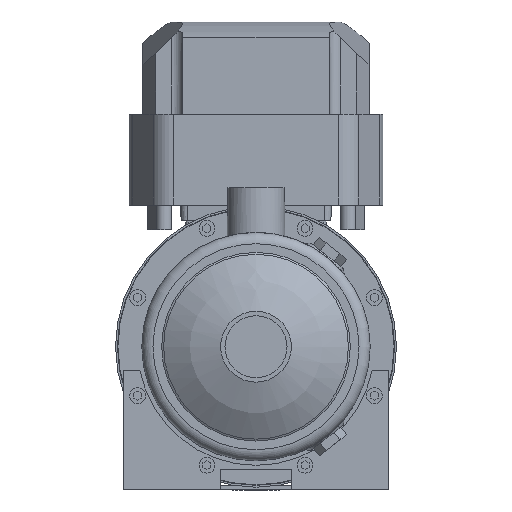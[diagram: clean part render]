
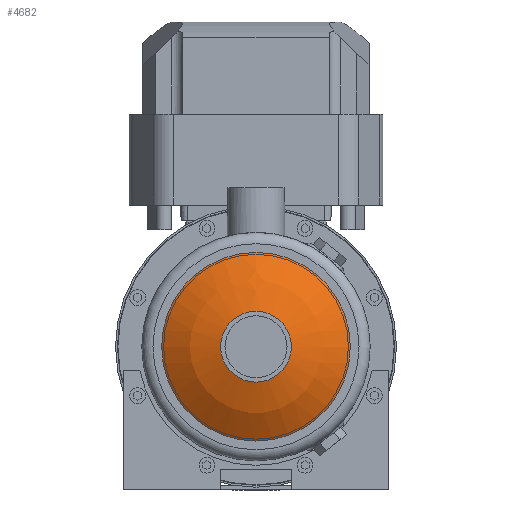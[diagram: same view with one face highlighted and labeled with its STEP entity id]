
A CAD part, left-side view. The second image highlights one B-rep face of the part: STEP entity #4682.
In plain terms, the highlighted spherical face has radius 100 mm.
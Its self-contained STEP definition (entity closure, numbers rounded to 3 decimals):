
#52=SPHERICAL_SURFACE('',#6084,100.);
#1115=ORIENTED_EDGE('',*,*,#2408,.T.);
#1116=ORIENTED_EDGE('',*,*,#2407,.F.);
#2407=EDGE_CURVE('',#3058,#3058,#3505,.T.);
#2408=EDGE_CURVE('',#3059,#3059,#3506,.T.);
#3058=VERTEX_POINT('',#8098);
#3059=VERTEX_POINT('',#8101);
#3505=CIRCLE('',#6083,22.25);
#3506=CIRCLE('',#6085,59.25);
#3691=EDGE_LOOP('',(#1115));
#3692=EDGE_LOOP('',(#1116));
#4096=FACE_BOUND('',#3691,.T.);
#4097=FACE_BOUND('',#3692,.T.);
#4682=ADVANCED_FACE('',(#4096,#4097),#52,.T.);
#6083=AXIS2_PLACEMENT_3D('',#8097,#6613,#6614);
#6084=AXIS2_PLACEMENT_3D('',#8099,#6615,#6616);
#6085=AXIS2_PLACEMENT_3D('',#8100,#6617,#6618);
#6613=DIRECTION('',(-1.,0.,0.));
#6614=DIRECTION('',(0.,0.,1.));
#6615=DIRECTION('',(-1.,0.,0.));
#6616=DIRECTION('',(0.,0.,1.));
#6617=DIRECTION('',(-1.,0.,0.));
#6618=DIRECTION('',(0.,0.,1.));
#8097=CARTESIAN_POINT('',(-67.293,0.,0.));
#8098=CARTESIAN_POINT('',(-67.293,0.,22.25));
#8099=CARTESIAN_POINT('',(30.2,0.,0.));
#8100=CARTESIAN_POINT('',(-50.357,0.,0.));
#8101=CARTESIAN_POINT('',(-50.357,0.,59.25));
